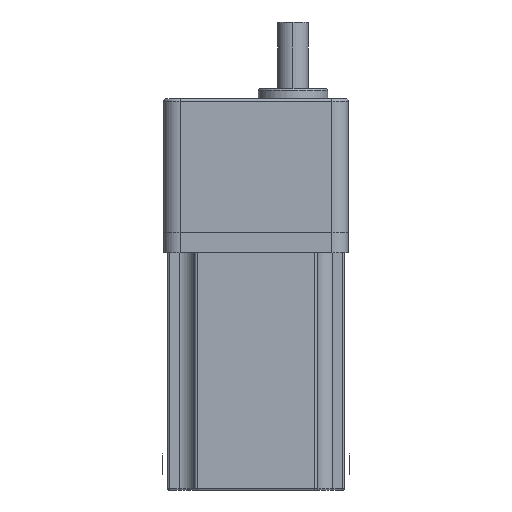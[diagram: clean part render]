
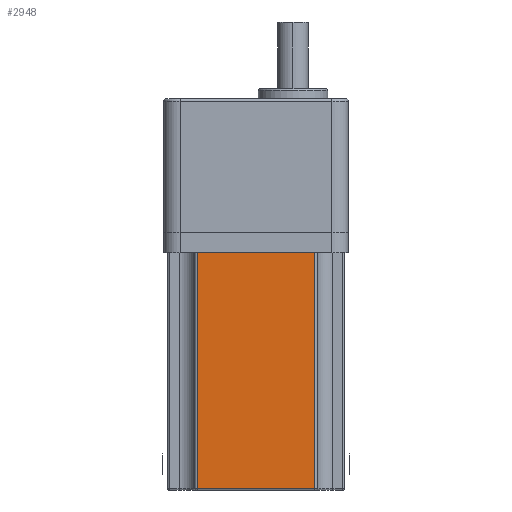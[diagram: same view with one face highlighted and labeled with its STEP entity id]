
A CAD part, front view. The second image highlights one B-rep face of the part: STEP entity #2948.
In plain terms, the highlighted planar face has unit normal (0, -1, 0).
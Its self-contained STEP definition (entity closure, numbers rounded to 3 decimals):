
#54 = CARTESIAN_POINT ( 'NONE',  ( -10.357, -54.139, 146.75 ) ) ;
#378 = VECTOR ( 'NONE', #3956, 1000. ) ;
#401 = EDGE_CURVE ( 'NONE', #1921, #4595, #3745, .T. ) ;
#429 = LINE ( 'NONE', #4188, #378 ) ;
#587 = VECTOR ( 'NONE', #1599, 1000. ) ;
#629 = EDGE_CURVE ( 'NONE', #3548, #1215, #3013, .T. ) ;
#1215 = VERTEX_POINT ( 'NONE', #54 ) ;
#1319 = EDGE_CURVE ( 'NONE', #4595, #3548, #429, .T. ) ;
#1587 = CARTESIAN_POINT ( 'NONE',  ( 47.087, -54.139, 31.75 ) ) ;
#1599 = DIRECTION ( 'NONE',  ( 0., 0., 1. ) ) ;
#1604 = CARTESIAN_POINT ( 'NONE',  ( -10.357, -54.139, 31.25 ) ) ;
#1678 = EDGE_LOOP ( 'NONE', ( #3501, #3236, #3219, #2232 ) ) ;
#1683 = CARTESIAN_POINT ( 'NONE',  ( 47.087, -54.139, 146.75 ) ) ;
#1921 = VERTEX_POINT ( 'NONE', #2433 ) ;
#1997 = DIRECTION ( 'NONE',  ( -1., 0., 0. ) ) ;
#2232 = ORIENTED_EDGE ( 'NONE', *, *, #629, .T. ) ;
#2335 = FACE_OUTER_BOUND ( 'NONE', #1678, .T. ) ;
#2433 = CARTESIAN_POINT ( 'NONE',  ( -10.357, -54.139, 31.75 ) ) ;
#2904 = VECTOR ( 'NONE', #1997, 1000. ) ;
#2948 = ADVANCED_FACE ( 'NONE', ( #2335 ), #4392, .F. ) ;
#3013 = LINE ( 'NONE', #3524, #2904 ) ;
#3219 = ORIENTED_EDGE ( 'NONE', *, *, #1319, .T. ) ;
#3236 = ORIENTED_EDGE ( 'NONE', *, *, #401, .T. ) ;
#3411 = AXIS2_PLACEMENT_3D ( 'NONE', #4297, #4234, #4232 ) ;
#3501 = ORIENTED_EDGE ( 'NONE', *, *, #4565, .F. ) ;
#3521 = VECTOR ( 'NONE', #4416, 1000. ) ;
#3524 = CARTESIAN_POINT ( 'NONE',  ( 0., -54.139, 146.75 ) ) ;
#3528 = LINE ( 'NONE', #1604, #587 ) ;
#3548 = VERTEX_POINT ( 'NONE', #1683 ) ;
#3745 = LINE ( 'NONE', #4512, #3521 ) ;
#3956 = DIRECTION ( 'NONE',  ( 0., 0., 1. ) ) ;
#4188 = CARTESIAN_POINT ( 'NONE',  ( 47.087, -54.139, 31.25 ) ) ;
#4232 = DIRECTION ( 'NONE',  ( -1., 0., 0. ) ) ;
#4234 = DIRECTION ( 'NONE',  ( 0., 1., 0. ) ) ;
#4297 = CARTESIAN_POINT ( 'NONE',  ( 0., -54.139, 31.25 ) ) ;
#4392 = PLANE ( 'NONE',  #3411 ) ;
#4416 = DIRECTION ( 'NONE',  ( 1., 0., 0. ) ) ;
#4512 = CARTESIAN_POINT ( 'NONE',  ( 47.087, -54.139, 31.75 ) ) ;
#4565 = EDGE_CURVE ( 'NONE', #1921, #1215, #3528, .T. ) ;
#4595 = VERTEX_POINT ( 'NONE', #1587 ) ;
